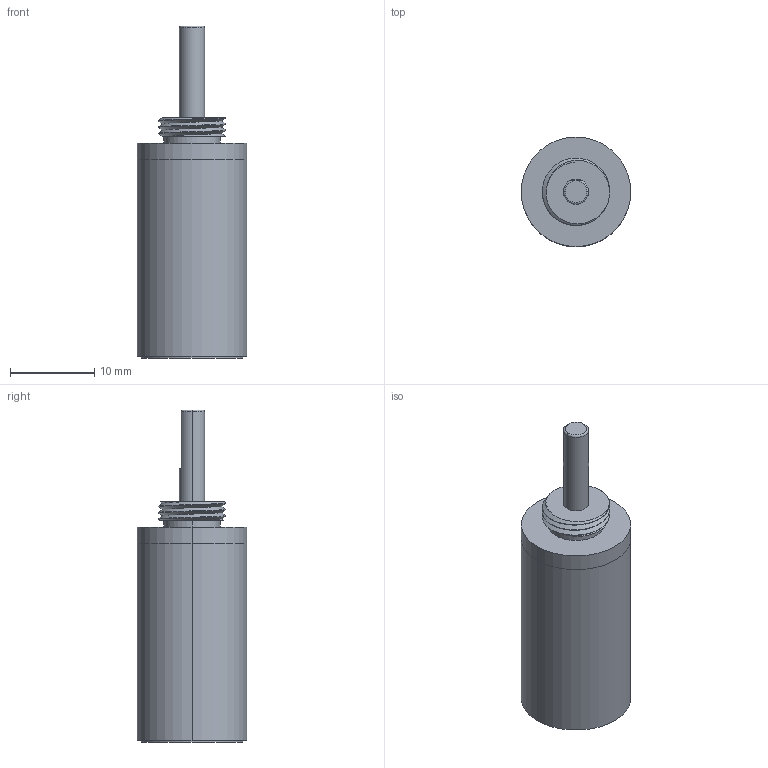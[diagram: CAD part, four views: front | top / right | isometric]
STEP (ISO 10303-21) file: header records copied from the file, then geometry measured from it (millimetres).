
FILE_DESCRIPTION (( 'STEP AP203' ), '1' );
FILE_NAME ('IG-13(II)-5stage.STEP', '2023-03-27T02:44:10', ( '' ), ( '' ), 'SwSTEP 2.0', 'SolidWorks 2019', '' );
FILE_SCHEMA (( 'CONFIG_CONTROL_DESIGN' ));
Length unit declared in the file: millimetre
Products named in the file (1): IG-13(II)-5stage
Bounding box: 13 x 13 x 39.4 mm (x, y, z)
Volume: 3798.5 mm3; surface area: 1933.3 mm2
Topology: 2 solids, 2 shells, 40 faces, 84 edges, 55 vertices
Faces by surface type: cylinder 22, plane 13, torus 3, bspline 2
Entity records: 1645 total; most frequent: CARTESIAN_POINT 724, DIRECTION 184, ORIENTED_EDGE 168, EDGE_CURVE 84, AXIS2_PLACEMENT_3D 80, VERTEX_POINT 55, EDGE_LOOP 47, CIRCLE 41
